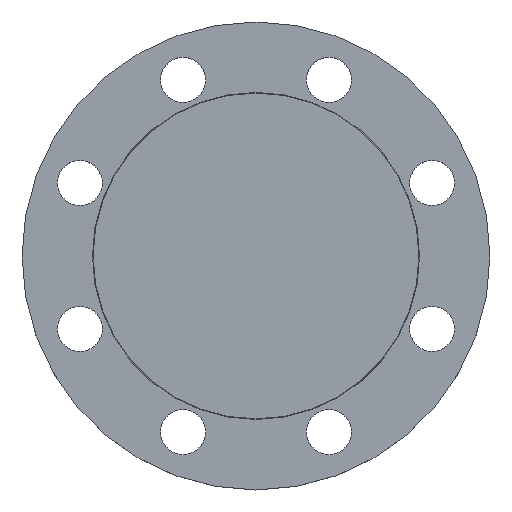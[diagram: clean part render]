
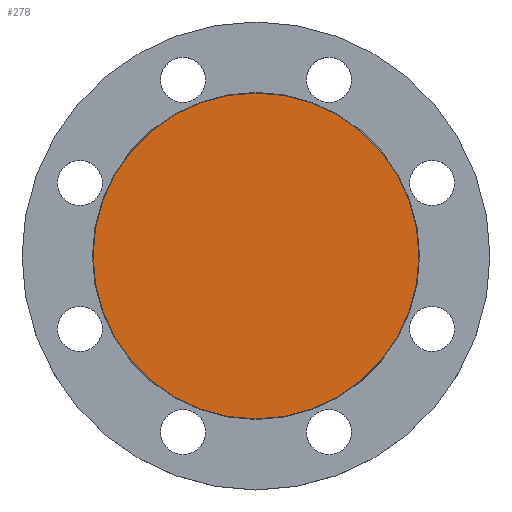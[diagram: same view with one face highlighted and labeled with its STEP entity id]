
A CAD part, top view. The second image highlights one B-rep face of the part: STEP entity #278.
In plain terms, the highlighted planar face has unit normal (0, 0, 1).
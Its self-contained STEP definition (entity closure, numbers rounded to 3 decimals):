
#24 = FACE_OUTER_BOUND ( 'NONE', #604, .T. ) ;
#31 = CARTESIAN_POINT ( 'NONE',  ( 0., 0., 0. ) ) ;
#39 = DIRECTION ( 'NONE',  ( 1., 0., 0. ) ) ;
#51 = PLANE ( 'NONE',  #263 ) ;
#72 = DIRECTION ( 'NONE',  ( 0., 0., 1. ) ) ;
#244 = AXIS2_PLACEMENT_3D ( 'NONE', #401, #398, #391 ) ;
#253 = CIRCLE ( 'NONE', #244, 94. ) ;
#263 = AXIS2_PLACEMENT_3D ( 'NONE', #31, #72, #39 ) ;
#278 = ADVANCED_FACE ( 'NONE', ( #24 ), #51, .T. ) ;
#378 = AXIS2_PLACEMENT_3D ( 'NONE', #617, #612, #608 ) ;
#384 = CIRCLE ( 'NONE', #378, 94. ) ;
#391 = DIRECTION ( 'NONE',  ( -1., 0., 0. ) ) ;
#398 = DIRECTION ( 'NONE',  ( 0., 0., -1. ) ) ;
#401 = CARTESIAN_POINT ( 'NONE',  ( 0., 0., 0. ) ) ;
#533 = CARTESIAN_POINT ( 'NONE',  ( 94., 0., 0. ) ) ;
#540 = VERTEX_POINT ( 'NONE', #908 ) ;
#604 = EDGE_LOOP ( 'NONE', ( #648, #651 ) ) ;
#608 = DIRECTION ( 'NONE',  ( -1., 0., 0. ) ) ;
#612 = DIRECTION ( 'NONE',  ( 0., 0., -1. ) ) ;
#617 = CARTESIAN_POINT ( 'NONE',  ( 0., 0., 0. ) ) ;
#648 = ORIENTED_EDGE ( 'NONE', *, *, #899, .F. ) ;
#651 = ORIENTED_EDGE ( 'NONE', *, *, #820, .F. ) ;
#820 = EDGE_CURVE ( 'NONE', #851, #540, #384, .T. ) ;
#851 = VERTEX_POINT ( 'NONE', #533 ) ;
#899 = EDGE_CURVE ( 'NONE', #540, #851, #253, .T. ) ;
#908 = CARTESIAN_POINT ( 'NONE',  ( -94., 0., 0. ) ) ;
